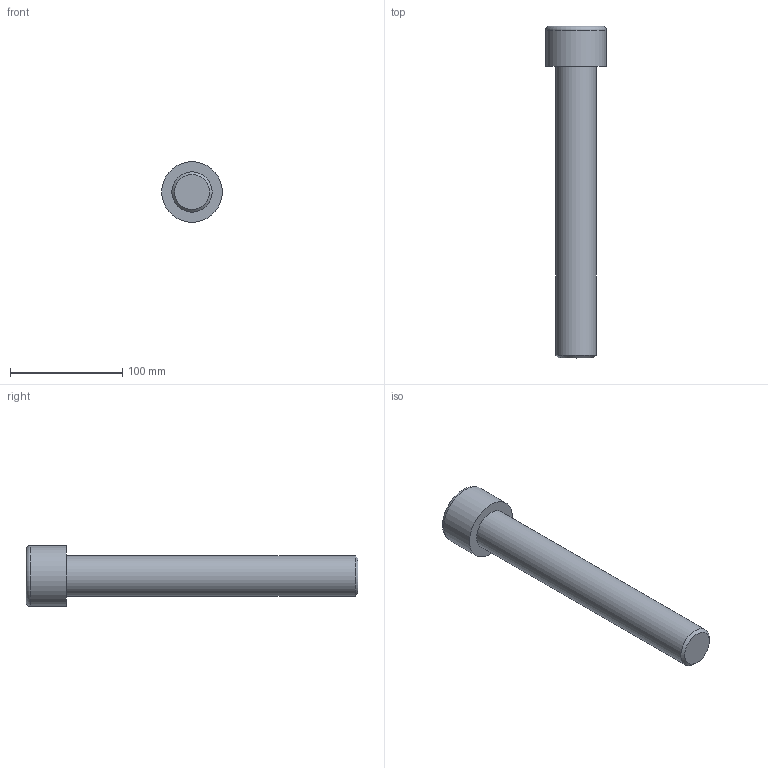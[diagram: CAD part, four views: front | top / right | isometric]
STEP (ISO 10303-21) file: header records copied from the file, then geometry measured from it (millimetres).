
FILE_DESCRIPTION(/* description */ (''),/* implementation_level */ '2;1');
FILE_NAME(/* name */ 'C:\Users\D\Documents\Inventor\各種小物\JIS\JIS B 1176 六角穴付きボルト\M36x260.stp',/* time_stamp */ '2022-05-09T19:03:53+09:00',/* author */ ('D'),/* organization */ (''),/* preprocessor_version */ 'ST-DEVELOPER v18',/* originating_system */ 'Autodesk Inventor 2020',/* authorisation */ '');
FILE_SCHEMA (('AUTOMOTIVE_DESIGN { 1 0 10303 214 3 1 1 }'));
Length unit declared in the file: millimetre
Products named in the file (1): M1.6x2.5
Bounding box: 54 x 296 x 54 mm (x, y, z)
Volume: 332091.2 mm3; surface area: 41603.8 mm2
Topology: 1 solids, 1 shells, 14 faces, 33 edges, 22 vertices
Faces by surface type: plane 9, cone 2, cylinder 2, torus 1
Full cylindrical faces by diameter (mm): 36 x1, 54 x1
Entity records: 435 total; most frequent: CARTESIAN_POINT 83, ORIENTED_EDGE 64, DIRECTION 64, EDGE_CURVE 32, AXIS2_PLACEMENT_3D 24, VERTEX_POINT 22, EDGE_LOOP 16, LINE 16
